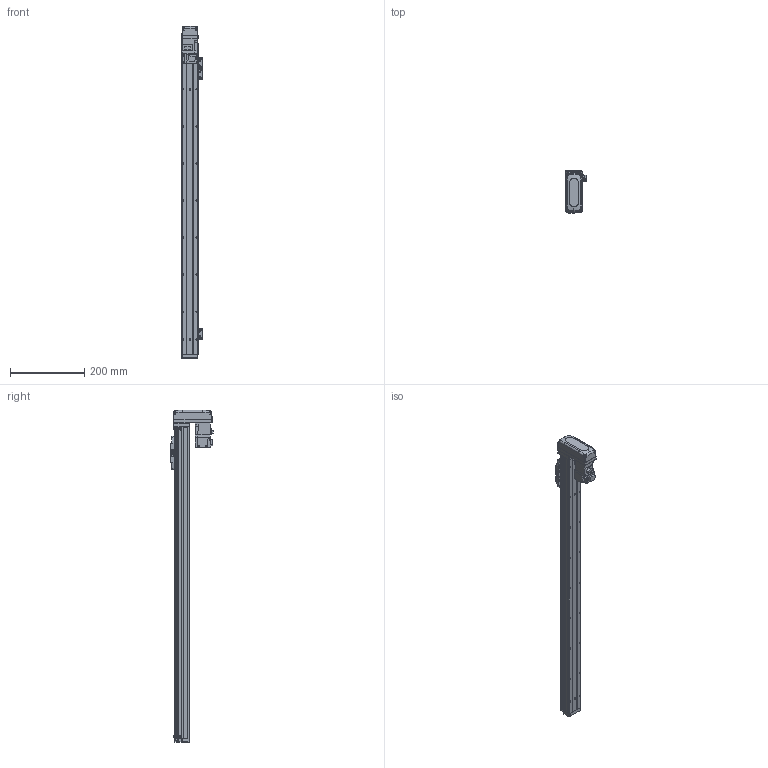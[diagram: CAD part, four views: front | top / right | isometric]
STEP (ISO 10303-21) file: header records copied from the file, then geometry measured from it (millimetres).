
FILE_DESCRIPTION (( 'STEP AP203' ), '1' );
FILE_NAME ('GTH4-700-BM-M05-C4.step', '2023-08-28T00:43:24', ( '微软用户' ), ( '微软中国' ), 'SwSTEP 2.0', 'SolidWorks 2020', '' );
FILE_SCHEMA (( 'CONFIG_CONTROL_DESIGN' ));
Length unit declared in the file: millimetre
Products named in the file (19): BTH50-028; BTH40-004; BTH50-023; BTH40-013; BTH40-001-50_BTH40-001-700; BTH50-024; HG-KR13; BTH40-003; GBT 70.1-M3℅6; GBT 70.3-M3℅6; BTH40-006; GBT96.1-2002 3×0.8; BTH40-027-1; BTH-M3X5X6; BTH40-022; BTH50-026; GBT70.1-2000 M3×16; GBT 70.1-M2.5×6; GTH4-700-BM-M05-C4
Assembly tree (47 placements, depth 2):
  GTH4-700-BM-M05-C4
    BTH40-001-50_BTH40-001-700
    BTH40-003
    BTH40-006
    BTH-M3X5X6  x8
    GBT70.1-2000 M3×16  x4
    BTH50-028  x2
    BTH50-023  x3
    BTH50-024  x3
    GBT 70.1-M3℅6  x6
    GBT96.1-2002 3×0.8  x6
    BTH40-022
    GBT 70.1-M2.5×6  x2
    BTH40-004
    BTH40-013
    HG-KR13
    GBT 70.3-M3℅6  x4
    BTH40-027-1
    BTH50-026
Bounding box: 55.2 x 115.8 x 896 mm (x, y, z)
Volume: 1572888.3 mm3; surface area: 266812.4 mm2
Topology: 49 solids, 49 shells, 1991 faces, 4683 edges, 2882 vertices
Faces by surface type: plane 1052, cylinder 503, cone 270, torus 128, bspline 34, sphere 4
Entity records: 39987 total; most frequent: CARTESIAN_POINT 7642, DIRECTION 6280, ORIENTED_EDGE 6012, EDGE_CURVE 3006, AXIS2_PLACEMENT_3D 2155, LINE 1970, VECTOR 1970, VERTEX_POINT 1869
